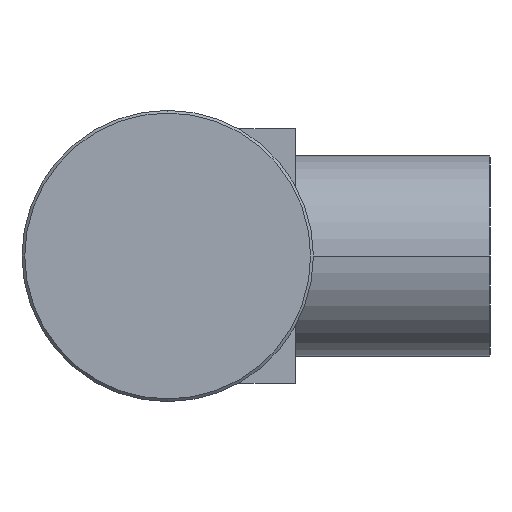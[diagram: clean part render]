
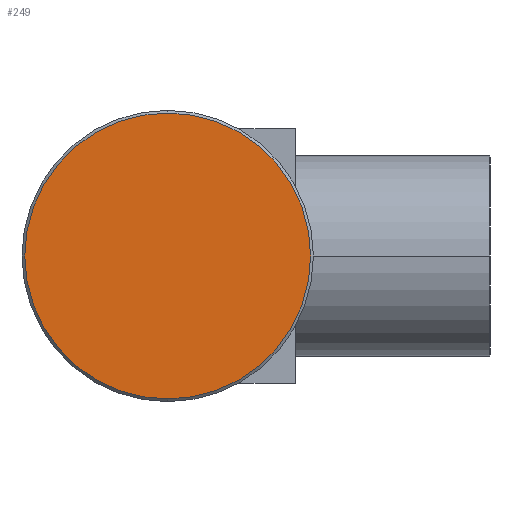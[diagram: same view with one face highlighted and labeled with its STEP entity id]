
A CAD part, left-side view. The second image highlights one B-rep face of the part: STEP entity #249.
In plain terms, the highlighted planar face has unit normal (-1, 0, 0).
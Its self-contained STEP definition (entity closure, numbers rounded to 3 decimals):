
#23 = CARTESIAN_POINT ( 'NONE',  ( 0., 0., 0. ) ) ;
#144 = DIRECTION ( 'NONE',  ( 0., 0., 1. ) ) ;
#207 = AXIS2_PLACEMENT_3D ( 'NONE', #473, #1179, #1284 ) ;
#249 = ADVANCED_FACE ( 'NONE', ( #942 ), #1074, .F. ) ;
#323 = DIRECTION ( 'NONE',  ( 0., 0., 1. ) ) ;
#375 = EDGE_LOOP ( 'NONE', ( #1288, #1205 ) ) ;
#473 = CARTESIAN_POINT ( 'NONE',  ( 0., 0., 0. ) ) ;
#610 = EDGE_CURVE ( 'NONE', #1075, #665, #1229, .T. ) ;
#657 = DIRECTION ( 'NONE',  ( -1., 0., 0. ) ) ;
#659 = CIRCLE ( 'NONE', #1124, 15.7 ) ;
#665 = VERTEX_POINT ( 'NONE', #1227 ) ;
#692 = EDGE_CURVE ( 'NONE', #665, #1075, #659, .T. ) ;
#720 = AXIS2_PLACEMENT_3D ( 'NONE', #23, #1037, #323 ) ;
#757 = CARTESIAN_POINT ( 'NONE',  ( 0., 0., 0. ) ) ;
#942 = FACE_OUTER_BOUND ( 'NONE', #375, .T. ) ;
#1037 = DIRECTION ( 'NONE',  ( -1., 0., 0. ) ) ;
#1074 = PLANE ( 'NONE',  #207 ) ;
#1075 = VERTEX_POINT ( 'NONE', #1240 ) ;
#1124 = AXIS2_PLACEMENT_3D ( 'NONE', #757, #657, #144 ) ;
#1179 = DIRECTION ( 'NONE',  ( 1., 0., 0. ) ) ;
#1205 = ORIENTED_EDGE ( 'NONE', *, *, #610, .T. ) ;
#1227 = CARTESIAN_POINT ( 'NONE',  ( 0., 0., -15.7 ) ) ;
#1229 = CIRCLE ( 'NONE', #720, 15.7 ) ;
#1240 = CARTESIAN_POINT ( 'NONE',  ( 0., 0., 15.7 ) ) ;
#1284 = DIRECTION ( 'NONE',  ( 0., 0., -1. ) ) ;
#1288 = ORIENTED_EDGE ( 'NONE', *, *, #692, .T. ) ;
